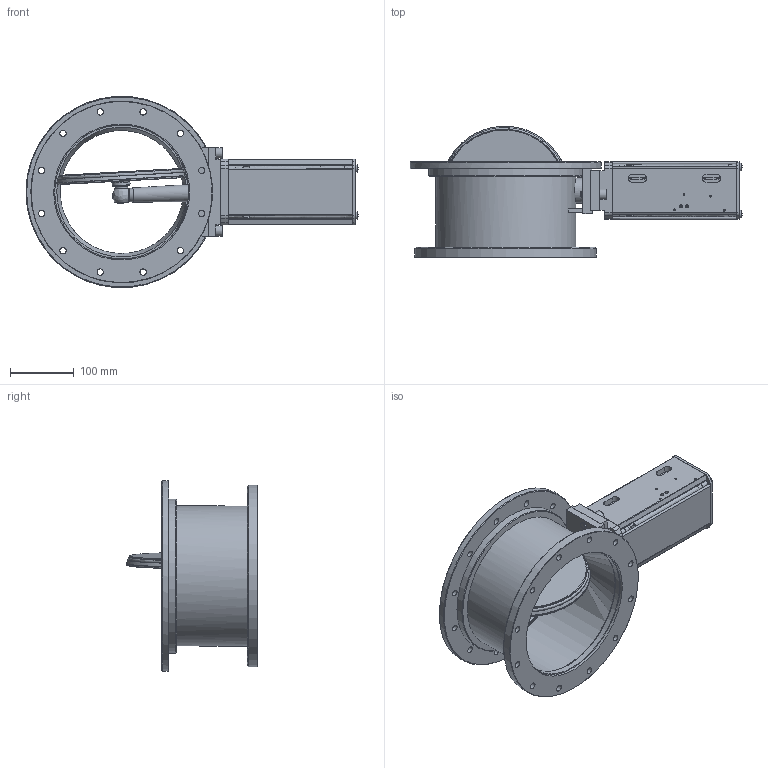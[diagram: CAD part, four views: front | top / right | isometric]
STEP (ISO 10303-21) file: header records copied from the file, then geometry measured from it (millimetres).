
FILE_DESCRIPTION((''),'2;1');
FILE_NAME('C:\TEMP\IDEAS\251472.stp','2007-11-06T14:23:47',('User'),( 'SDRC'),'I-DEAS Master Series 9','UNIX','Yes');
FILE_SCHEMA(('CONFIG_CONTROL_DESIGN'));
Length unit declared in the file: millimetre
Assembly tree (35 placements, depth 0):
Bounding box: 520.49 x 205.54 x 299.45 mm (x, y, z)
Volume: 3458540.8 mm3; surface area: 935154.4 mm2
Topology: 41 solids, 41 shells, 851 faces, 1956 edges, 1261 vertices
Faces by surface type: bspline 851
Entity records: 24766 total; most frequent: CARTESIAN_POINT 12114, ORIENTED_EDGE 2936, EDGE_CURVE 1468, VERTEX_POINT 956, EDGE_LOOP 848, FACE_OUTER_BOUND 639, ADVANCED_FACE 639, QUASI_UNIFORM_CURVE 576
